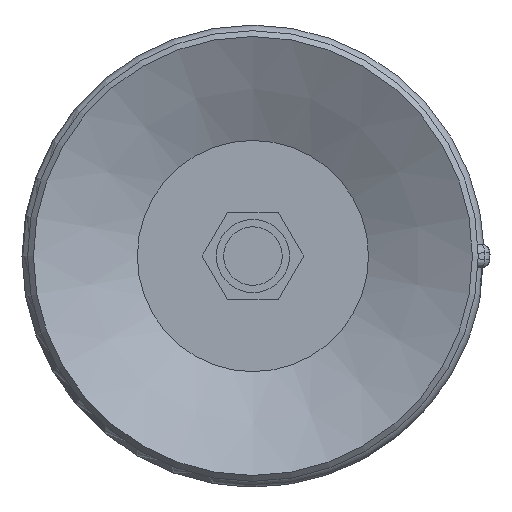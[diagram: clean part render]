
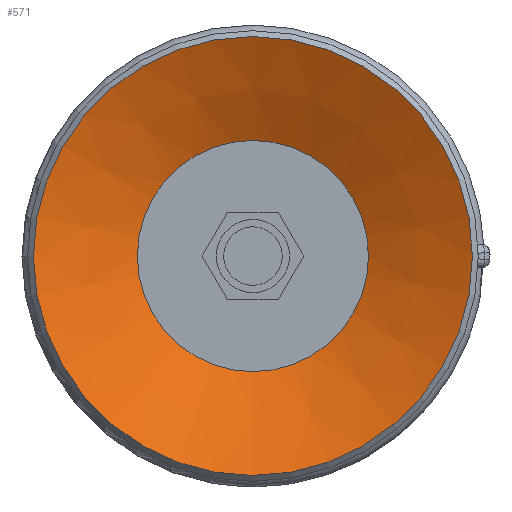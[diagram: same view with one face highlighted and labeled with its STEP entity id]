
A CAD part, front view. The second image highlights one B-rep face of the part: STEP entity #571.
In plain terms, the highlighted conical face has half-angle 64 degrees and reference radius 3.95 mm.
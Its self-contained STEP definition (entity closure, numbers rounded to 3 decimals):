
#571=ADVANCED_FACE('',(#870,#871),#872,.F.);
#870=FACE_BOUND('',#1258,.T.);
#871=FACE_OUTER_BOUND('',#1259,.T.);
#872=CONICAL_SURFACE('',#1260,3.95,1.117);
#1258=EDGE_LOOP('',(#2068));
#1259=EDGE_LOOP('',(#2069));
#1260=AXIS2_PLACEMENT_3D('',#2070,#2071,#2072);
#2068=ORIENTED_EDGE('',*,*,#2357,.F.);
#2069=ORIENTED_EDGE('',*,*,#2358,.T.);
#2070=CARTESIAN_POINT('',(0.0,-29.404,-47.168));
#2071=DIRECTION('',(-0.0,0.,1.0));
#2072=DIRECTION('',(0.0,-1.0,0.));
#2357=EDGE_CURVE('',#2735,#2735,#2736,.T.);
#2358=EDGE_CURVE('',#2737,#2737,#2738,.T.);
#2735=VERTEX_POINT('',#3505);
#2736=CIRCLE('',#3506,3.95);
#2737=VERTEX_POINT('',#3507);
#2738=CIRCLE('',#3508,7.5);
#3505=CARTESIAN_POINT('',(0.0,-33.354,-47.168));
#3506=AXIS2_PLACEMENT_3D('',#3888,#3889,#3890);
#3507=CARTESIAN_POINT('',(0.0,-36.904,-45.437));
#3508=AXIS2_PLACEMENT_3D('',#3891,#3892,#3893);
#3888=CARTESIAN_POINT('',(0.0,-29.404,-47.168));
#3889=DIRECTION('',(0.0,0.,1.0));
#3890=DIRECTION('',(0.0,-1.0,0.));
#3891=CARTESIAN_POINT('',(0.0,-29.404,-45.437));
#3892=DIRECTION('',(0.0,0.,1.0));
#3893=DIRECTION('',(0.0,-1.0,0.));
